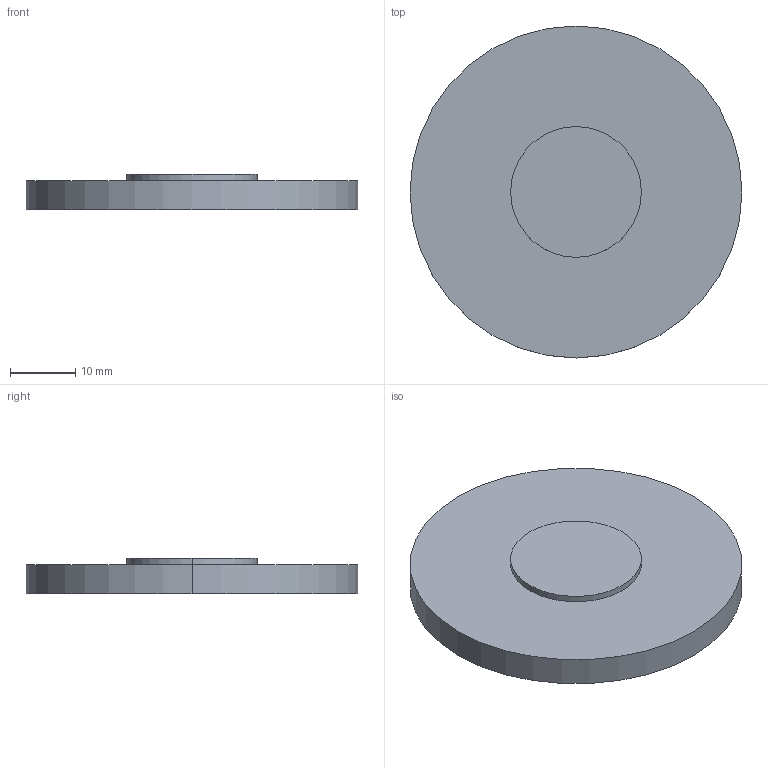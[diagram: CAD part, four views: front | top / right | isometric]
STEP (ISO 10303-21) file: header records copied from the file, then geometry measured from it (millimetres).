
FILE_DESCRIPTION(('STEP AP214'),'1');
FILE_NAME('LLG-5120M.STEP','2020-03-09T17:41:41',(' '),(' '),'Spatial InterOp 3D',' ',' ');
FILE_SCHEMA(('AUTOMOTIVE_DESIGN { 1 0 10303 214 1 1 1 1 }'));
Length unit declared in the file: millimetre
Products named in the file (1): 1
Bounding box: 50.8 x 50.8 x 5.5 mm (x, y, z)
Volume: 9429.3 mm3; surface area: 5462.1 mm2
Topology: 2 solids, 2 shells, 9 faces, 16 edges, 9 vertices
Faces by surface type: cylinder 4, plane 3, sphere 2
Entity records: 229 total; most frequent: DIRECTION 46, CARTESIAN_POINT 34, ORIENTED_EDGE 28, AXIS2_PLACEMENT_3D 21, EDGE_CURVE 14, CIRCLE 10, ADVANCED_FACE 9, FACE_OUTER_BOUND 9
